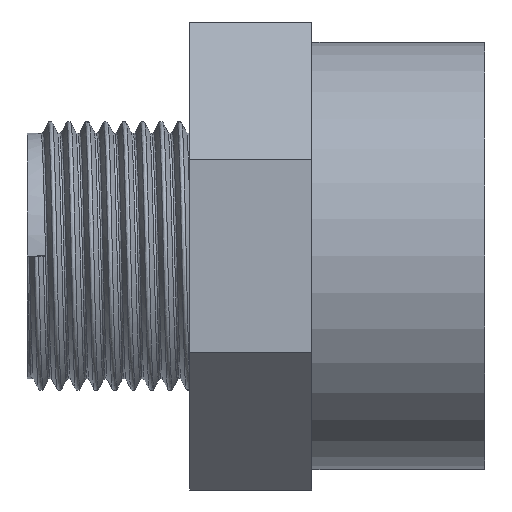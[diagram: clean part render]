
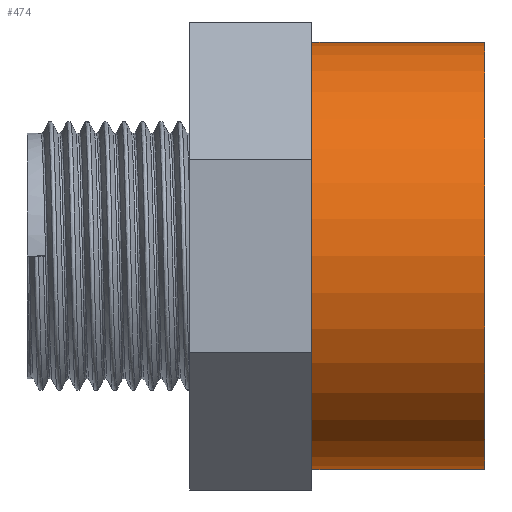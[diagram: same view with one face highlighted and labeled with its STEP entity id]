
A CAD part, left-side view. The second image highlights one B-rep face of the part: STEP entity #474.
In plain terms, the highlighted cylindrical face has radius 21 mm (diameter 42 mm), a full revolution.
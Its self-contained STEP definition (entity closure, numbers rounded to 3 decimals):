
#21=FACE_BOUND('',#165,.T.);
#26=CYLINDRICAL_SURFACE('',#507,21.);
#129=FACE_OUTER_BOUND('',#164,.T.);
#164=EDGE_LOOP('',(#422));
#165=EDGE_LOOP('',(#423));
#175=CIRCLE('',#489,21.);
#179=CIRCLE('',#506,21.);
#232=VERTEX_POINT('',#6922);
#244=VERTEX_POINT('',#6967);
#288=EDGE_CURVE('',#232,#232,#175,.T.);
#308=EDGE_CURVE('',#244,#244,#179,.T.);
#422=ORIENTED_EDGE('',*,*,#288,.T.);
#423=ORIENTED_EDGE('',*,*,#308,.T.);
#474=ADVANCED_FACE('',(#129,#21),#26,.T.);
#489=AXIS2_PLACEMENT_3D('',#6923,#547,#548);
#506=AXIS2_PLACEMENT_3D('',#6968,#597,#598);
#507=AXIS2_PLACEMENT_3D('',#6969,#599,#600);
#547=DIRECTION('center_axis',(0.,-1.,0.));
#548=DIRECTION('ref_axis',(-1.,0.,0.));
#597=DIRECTION('center_axis',(0.,1.,0.));
#598=DIRECTION('ref_axis',(1.,0.,0.));
#599=DIRECTION('center_axis',(0.,1.,0.));
#600=DIRECTION('ref_axis',(-1.,0.,0.));
#6922=CARTESIAN_POINT('',(21.,17.,0.));
#6923=CARTESIAN_POINT('Origin',(0.,17.,0.));
#6967=CARTESIAN_POINT('',(-21.,0.,0.));
#6968=CARTESIAN_POINT('Origin',(0.,0.,0.));
#6969=CARTESIAN_POINT('Origin',(0.,14.5,0.));
